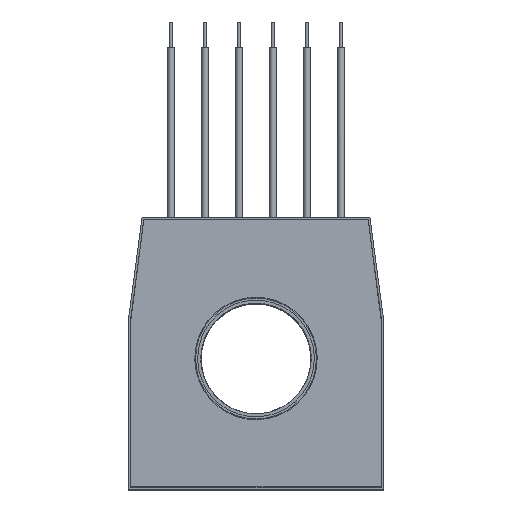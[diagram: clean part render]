
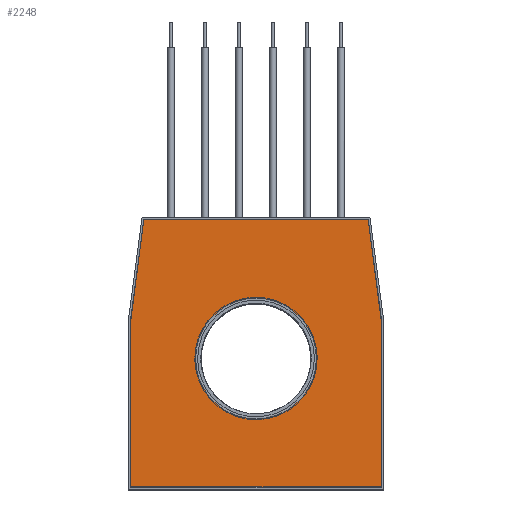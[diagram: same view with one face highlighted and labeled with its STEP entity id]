
A CAD part, top view. The second image highlights one B-rep face of the part: STEP entity #2248.
In plain terms, the highlighted planar face has unit normal (0, 0, 1).
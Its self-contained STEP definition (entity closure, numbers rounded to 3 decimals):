
#2248=ADVANCED_FACE('',(#3656,#3658),#3660,.T.);
#3656=FACE_BOUND('',#3657,.T.);
#3657=EDGE_LOOP('',(#4498,#4499,#4500,#4501,#4502,#4503));
#3658=FACE_BOUND('',#3659,.T.);
#3659=EDGE_LOOP('',(#4504));
#3660=PLANE('',#3661);
#3661=AXIS2_PLACEMENT_3D('',#3662,#3663,#3664);
#3662=CARTESIAN_POINT('',(0.,0.,5.));
#3663=DIRECTION('',(0.,0.,1.));
#3664=DIRECTION('',(1.,0.,0.));
#4498=ORIENTED_EDGE('',*,*,#4913,.T.);
#4499=ORIENTED_EDGE('',*,*,#4914,.T.);
#4500=ORIENTED_EDGE('',*,*,#4915,.T.);
#4501=ORIENTED_EDGE('',*,*,#4916,.T.);
#4502=ORIENTED_EDGE('',*,*,#4917,.T.);
#4503=ORIENTED_EDGE('',*,*,#4918,.T.);
#4504=ORIENTED_EDGE('',*,*,#4919,.T.);
#4913=EDGE_CURVE('',#5575,#5576,#5577,.T.);
#4914=EDGE_CURVE('',#5576,#5578,#5579,.T.);
#4915=EDGE_CURVE('',#5578,#5580,#5581,.T.);
#4916=EDGE_CURVE('',#5580,#5582,#5583,.T.);
#4917=EDGE_CURVE('',#5582,#5584,#5585,.T.);
#4918=EDGE_CURVE('',#5584,#5575,#5586,.T.);
#4919=EDGE_CURVE('',#5587,#5587,#5588,.F.);
#5575=VERTEX_POINT('',#7103);
#5576=VERTEX_POINT('',#7104);
#5577=LINE('',#7105,#7106);
#5578=VERTEX_POINT('',#7108);
#5579=LINE('',#7109,#7110);
#5580=VERTEX_POINT('',#7112);
#5581=LINE('',#7113,#7114);
#5582=VERTEX_POINT('',#7116);
#5583=LINE('',#7117,#7118);
#5584=VERTEX_POINT('',#7120);
#5585=LINE('',#7121,#7122);
#5586=LINE('',#7124,#7125);
#5587=VERTEX_POINT('',#7127);
#5588=CIRCLE('',#7128,35.5);
#7103=CARTESIAN_POINT('',(-73.5,19.815,5.));
#7104=CARTESIAN_POINT('',(-73.5,-78.5,5.));
#7105=CARTESIAN_POINT('',(-73.5,19.815,5.));
#7106=VECTOR('',#7107,1.);
#7107=DIRECTION('',(0.,-1.,0.));
#7108=CARTESIAN_POINT('',(73.5,-78.5,5.));
#7109=CARTESIAN_POINT('',(-73.5,-78.5,5.));
#7110=VECTOR('',#7111,1.);
#7111=DIRECTION('',(1.,0.,0.));
#7112=CARTESIAN_POINT('',(73.5,19.815,5.));
#7113=CARTESIAN_POINT('',(73.5,-78.5,5.));
#7114=VECTOR('',#7115,1.);
#7115=DIRECTION('',(0.,1.,0.));
#7116=CARTESIAN_POINT('',(66.,78.5,5.));
#7117=CARTESIAN_POINT('',(73.5,19.815,5.));
#7118=VECTOR('',#7119,1.);
#7119=DIRECTION('',(-0.127,0.992,0.));
#7120=CARTESIAN_POINT('',(-66.,78.5,5.));
#7121=CARTESIAN_POINT('',(66.,78.5,5.));
#7122=VECTOR('',#7123,1.);
#7123=DIRECTION('',(-1.,0.,0.));
#7124=CARTESIAN_POINT('',(-66.,78.5,5.));
#7125=VECTOR('',#7126,1.);
#7126=DIRECTION('',(-0.127,-0.992,0.));
#7127=CARTESIAN_POINT('',(35.5,-3.,5.));
#7128=AXIS2_PLACEMENT_3D('',#7129,#7130,#7131);
#7129=CARTESIAN_POINT('',(0.,-3.,5.));
#7130=DIRECTION('',(0.,0.,1.));
#7131=DIRECTION('',(1.,0.,0.));
